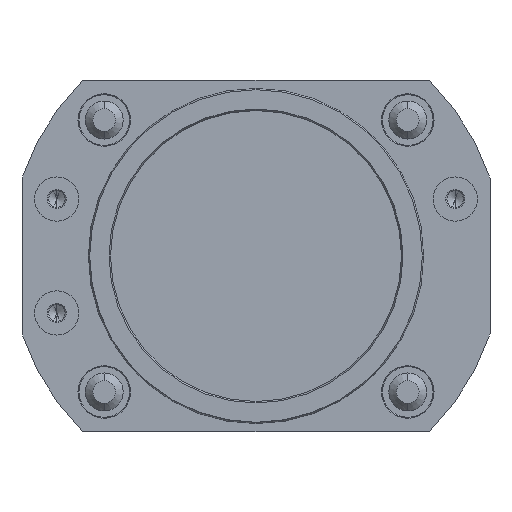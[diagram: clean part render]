
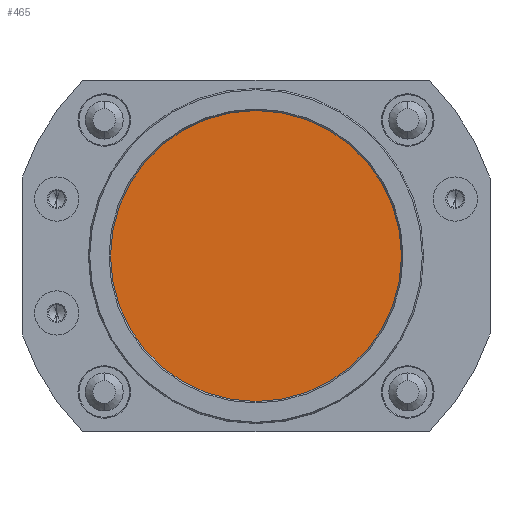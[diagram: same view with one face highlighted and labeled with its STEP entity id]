
A CAD part, front view. The second image highlights one B-rep face of the part: STEP entity #465.
In plain terms, the highlighted planar face has unit normal (0, -1, 0).
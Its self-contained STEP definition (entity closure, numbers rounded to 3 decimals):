
#465 = ADVANCED_FACE ( 'NONE', ( #2553 ), #2557, .T. ) ;
#492 = EDGE_LOOP ( 'NONE', ( #5744, #5745 ) ) ;
#505 = EDGE_CURVE ( 'NONE', #534, #529, #2648, .T. ) ;
#529 = VERTEX_POINT ( 'NONE', #2671 ) ;
#534 = VERTEX_POINT ( 'NONE', #2662 ) ;
#2535 = DIRECTION ( 'NONE',  ( 0., 0., -1. ) ) ;
#2536 = DIRECTION ( 'NONE',  ( 0., -1., 0. ) ) ;
#2537 = CARTESIAN_POINT ( 'NONE',  ( 0., 3., 0. ) ) ;
#2553 = FACE_OUTER_BOUND ( 'NONE', #492, .T. ) ;
#2557 = PLANE ( 'NONE',  #2558 ) ;
#2558 = AXIS2_PLACEMENT_3D ( 'NONE', #2537, #2536, #2535 ) ;
#2635 = DIRECTION ( 'NONE',  ( 0., 0., 1. ) ) ;
#2636 = DIRECTION ( 'NONE',  ( 0., 1., 0. ) ) ;
#2637 = CARTESIAN_POINT ( 'NONE',  ( 0., 3., 0. ) ) ;
#2638 = AXIS2_PLACEMENT_3D ( 'NONE', #2637, #2636, #2635 ) ;
#2648 = CIRCLE ( 'NONE', #2638, 23. ) ;
#2662 = CARTESIAN_POINT ( 'NONE',  ( 0., 3., -23. ) ) ;
#2671 = CARTESIAN_POINT ( 'NONE',  ( 0., 3., 23. ) ) ;
#5744 = ORIENTED_EDGE ( 'NONE', *, *, #5748, .F. ) ;
#5745 = ORIENTED_EDGE ( 'NONE', *, *, #505, .F. ) ;
#5748 = EDGE_CURVE ( 'NONE', #529, #534, #9194, .T. ) ;
#9154 = CARTESIAN_POINT ( 'NONE',  ( 0., 3., 0. ) ) ;
#9188 = DIRECTION ( 'NONE',  ( 0., 0., 1. ) ) ;
#9189 = DIRECTION ( 'NONE',  ( 0., 1., 0. ) ) ;
#9190 = AXIS2_PLACEMENT_3D ( 'NONE', #9154, #9189, #9188 ) ;
#9194 = CIRCLE ( 'NONE', #9190, 23. ) ;
